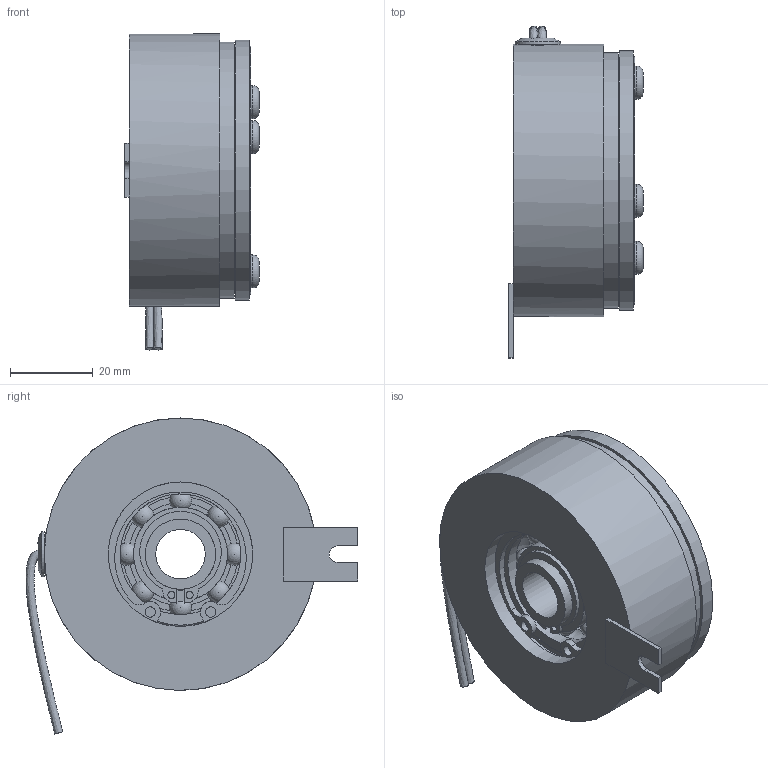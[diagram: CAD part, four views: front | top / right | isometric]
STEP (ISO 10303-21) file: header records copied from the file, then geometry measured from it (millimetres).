
FILE_DESCRIPTION(/* description */ (''),/* implementation_level */ '2;1');
FILE_NAME(/* name */ '\\Srv-tecnico\DATI\UFFICIO TECNICO\ARCHIVIO INVENTOR\DISEGNI\UFFICIO TECNICO\08_Freni_Friz_Elettromagnetici_Monodisco\08_25 EMSL\08_25_060_01 EMSL060\08_25_060_01 EMSL060@STEP.stp',/* time_stamp */ '2015-11-24T16:42:49+01:00',/* author */ ('stefano'),/* organization */ (''),/* preprocessor_version */ 'ST-DEVELOPER v15.6',/* originating_system */ 'Autodesk Inventor 2015',/* authorisation */ '');
FILE_SCHEMA (('AUTOMOTIVE_DESIGN { 1 0 10303 214 3 1 1 }'));
Length unit declared in the file: millimetre
Products named in the file (1): 08_25_060_01 EMSL060_Substitute_1
Bounding box: 32.5 x 80.43 x 76.55 mm (x, y, z)
Volume: 60642.5 mm3; surface area: 36399.4 mm2
Topology: 3 solids, 3 shells, 233 faces, 633 edges, 401 vertices
Faces by surface type: plane 85, cylinder 74, torus 58, sphere 8, cone 5, bspline 3
Full cylindrical faces by diameter (mm): 1.7 x2, 2.5 x5, 4 x1, 4.1 x3, 8 x3, 10 x3, 11 x1, 12 x1, 16.5 x1, 17 x2, 22.76 x2, 25 x1, 28 x1, 29.24 x2, 34 x1, 35 x3, 40 x1, 41.5 x1, 43.5 x1, 55.5 x1, 57.5 x1, 60 x1, 62 x1, 62.1 x1, 63 x1, 66 x1
Entity records: 8327 total; most frequent: CARTESIAN_POINT 2614, DIRECTION 1221, ORIENTED_EDGE 1086, AXIS2_PLACEMENT_3D 562, EDGE_CURVE 538, VERTEX_POINT 365, EDGE_LOOP 337, CIRCLE 332
